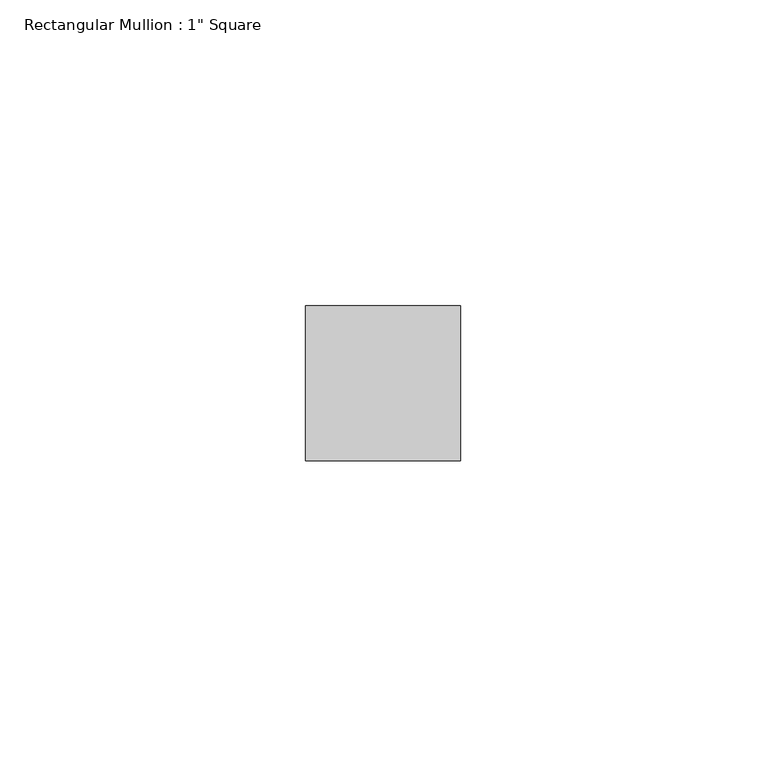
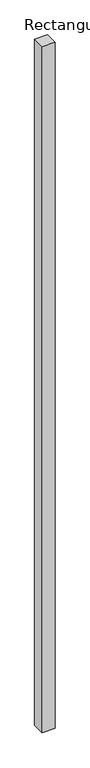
"""IFC4 building model written with IfcOpenShell, lengths in millimetres: member geometry."""

from ifc_helpers import new_model, si_unit, frame, origin, place, context, project, spatial, polyline, outline, extrude, source, transform, mapped, element, save


def member_4a6620f8(model_context):
    return source(origin(), model_context, "Body", "SweptSolid", [
        extrude(outline(polyline([(12.7, 12.7), (12.7, -12.7), (-12.7, -12.7), (-12.7, 12.7), (12.7, 12.7)])), frame((0.0, 0.0, -1415.5620159), z_axis=(0.0, 0.0, 1.0), x_axis=(1.0, 0.0, 0.0)), (0.0, 0.0, 1.0), 1415.5620159),
    ])


if __name__ == "__main__":
    model = new_model("IFC4")
    model_context = context("Model", 3, world=origin())
    ifc_project = project(units=[si_unit("LENGTHUNIT", "METRE", prefix="MILLI")], contexts=[model_context])
    site = spatial("IfcSite", under=ifc_project)
    building = spatial("IfcBuilding", under=site)
    placement = place(None, origin())
    member_shape = member_4a6620f8(model_context)
    element("IfcMember", 1, ObjectType="Rectangular Mullion : 1\" Square", at=placement, inside=building, context=model_context, shape_type="MappedRepresentation", body=[
        mapped(member_shape, transform((0.0, 0.0, 0.0), x_axis=(1.0, 0.0, 0.0), y_axis=(0.0, 1.0, 0.0), z_axis=(0.0, 0.0, 1.0))),
    ])
    save(model, "model.ifc")
